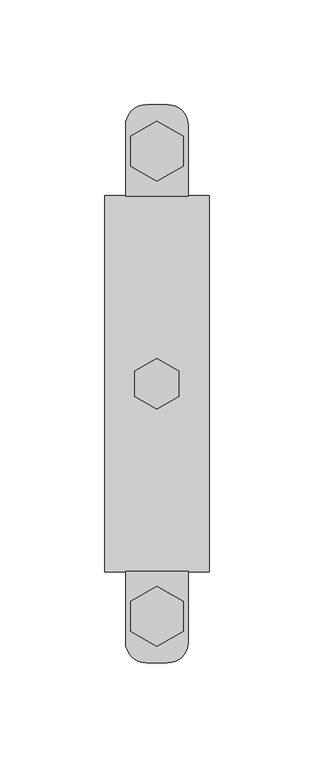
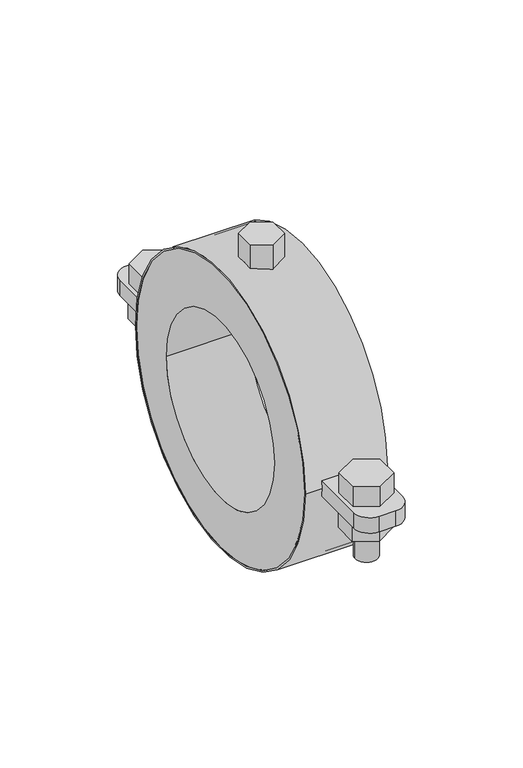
"""IFC4 building model written with IfcOpenShell, lengths in millimetres: pipe fitting geometry, СТ_Подвесы_ДляТруб_IsotermUltima_D10-219_СимфонияТепла : Isoterm ULT 32-114."""

from ifc_helpers import new_model, si_unit, point, frame, frame_2d, origin, origin_2d, place, context, project, spatial, polyline, circle_curve, trimmed, segment, composite_curve, outline, extrude, source, transform, mapped, element, save
from ifc_brep_helpers import plane_surface, cylinder_surface, advanced_brep


def pipe_fitting_ec2c8cdd(model_context):
    return source(origin(), model_context, "Body", "SolidModel", [
        extrude(outline(polyline([(12.5, 104.9613249), (0.0, 97.7444465), (-12.5, 104.9613249), (-12.5, 119.3950816), (0.0, 126.61196), (12.5, 119.3950816), (12.5, 104.9613249)])), frame((0.0, 0.0, -18.0), z_axis=(0.0, 0.0, 1.0), x_axis=(1.0, 0.0, 0.0)), (0.0, 0.0, 1.0), 13.0),
        advanced_brep(
        [(-7.0, 111.25, -35.0), (7.0, 111.25, -35.0), (7.0, 111.25, 5.0), (-7.0, 111.25, 5.0), (12.5, 104.0331216, 18.0), (12.5, 118.4668784, 18.0), (0.0, 125.6837567, 18.0), (-12.5, 118.4668784, 18.0), (-12.5, 104.0331216, 18.0), (0.0, 96.8162433, 18.0), (12.5, 104.0331216, 5.0), (0.0, 96.8162433, 5.0), (-12.5, 104.0331216, 5.0), (-12.5, 118.4668784, 5.0), (0.0, 125.6837567, 5.0), (12.5, 118.4668784, 5.0)],
        [
            (0, 1, circle_curve(frame((0.0, 111.25, -35.0), z_axis=(0.0, 0.0, -1.0), x_axis=(1.0, 0.0, 0.0)), 7.0)),
            (1, 0, circle_curve(frame((0.0, 111.25, -35.0), z_axis=(0.0, 0.0, -1.0), x_axis=(1.0, 0.0, 0.0)), 7.0)),
            (1, 2),
            (2, 3, circle_curve(frame((0.0, 111.25, 5.0), z_axis=(0.0, 0.0, -1.0), x_axis=(1.0, 0.0, 0.0)), 7.0)),
            (3, 0),
            (3, 2, circle_curve(frame((0.0, 111.25, 5.0), z_axis=(0.0, 0.0, -1.0), x_axis=(1.0, 0.0, 0.0)), 7.0)),
            (4, 5),
            (5, 6),
            (6, 7),
            (7, 8),
            (8, 9),
            (9, 4),
            (10, 11),
            (11, 12),
            (12, 13),
            (13, 14),
            (14, 15),
            (15, 10),
            (4, 10),
            (15, 5),
            (14, 6),
            (13, 7),
            (12, 8),
            (11, 9),
        ],
        [
            plane_surface(frame((7.0, 111.25, -35.0), z_axis=(0.0, 0.0, -1.0), x_axis=(0.0, -1.0, 0.0))),
            cylinder_surface(frame((0.0, 111.25, -35.0), z_axis=(0.0, 0.0, 1.0), x_axis=(1.0, 0.0, 0.0)), 7.0),
            plane_surface(frame((12.5, 104.0331216, 18.0), z_axis=(0.0, 0.0, 1.0), x_axis=(0.0, 1.0, 0.0))),
            plane_surface(frame((12.5, 104.0331216, 5.0), z_axis=(0.0, 0.0, -1.0), x_axis=(0.0, -1.0, 0.0))),
            plane_surface(frame((12.5, 104.0331216, 18.0), z_axis=(1.0, 0.0, 0.0), x_axis=(0.0, 0.0, -1.0))),
            plane_surface(frame((12.5, 118.4668784, 18.0), z_axis=(0.5000000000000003, 0.8660254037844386, 0.0), x_axis=(0.0, 0.0, -1.0))),
            plane_surface(frame((0.0, 125.6837567, 18.0), z_axis=(-0.5000000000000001, 0.8660254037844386, 0.0), x_axis=(0.0, 0.0, -1.0))),
            plane_surface(frame((-12.5, 118.4668784, 18.0), z_axis=(-1.0, 0.0, 0.0), x_axis=(0.0, 0.0, -1.0))),
            plane_surface(frame((-12.5, 104.0331216, 18.0), z_axis=(-0.5000000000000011, -0.8660254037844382, 0.0), x_axis=(0.0, 0.0, -1.0))),
            plane_surface(frame((0.0, 96.8162433, 18.0), z_axis=(0.5000000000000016, -0.8660254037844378, 0.0), x_axis=(0.0, 0.0, -1.0))),
        ],
        [
            (0, [[1, 2]]),
            (1, [[-2, 3, 4, 5]]),
            (1, [[-1, -5, 6, -3]]),
            (2, [[7, 8, 9, 10, 11, 12]]),
            (3, [[13, 14, 15, 16, 17, 18], [-4, -6]]),
            (4, [[-7, 19, -18, 20]]),
            (5, [[-8, -20, -17, 21]]),
            (6, [[-9, -21, -16, 22]]),
            (7, [[-10, -22, -15, 23]]),
            (8, [[-11, -23, -14, 24]]),
            (9, [[-12, -24, -13, -19]]),
        ],
    ),
        extrude(outline(polyline([(12.5, -117.5386751), (0.0, -124.7555535), (-12.5, -117.5386751), (-12.5, -103.1049184), (0.0, -95.88804), (12.5, -103.1049184), (12.5, -117.5386751)])), frame((0.0, 0.0, -18.0), z_axis=(0.0, 0.0, 1.0), x_axis=(1.0, 0.0, 0.0)), (0.0, 0.0, 1.0), 13.0),
        advanced_brep(
        [(-7.0, -111.25, -35.0), (7.0, -111.25, -35.0), (7.0, -111.25, 5.0), (-7.0, -111.25, 5.0), (12.5, -118.4668784, 18.0), (12.5, -104.0331216, 18.0), (0.0, -96.8162433, 18.0), (-12.5, -104.0331216, 18.0), (-12.5, -118.4668784, 18.0), (0.0, -125.6837567, 18.0), (12.5, -118.4668784, 5.0), (0.0, -125.6837567, 5.0), (-12.5, -118.4668784, 5.0), (-12.5, -104.0331216, 5.0), (0.0, -96.8162433, 5.0), (12.5, -104.0331216, 5.0)],
        [
            (0, 1, circle_curve(frame((0.0, -111.25, -35.0), z_axis=(0.0, 0.0, -1.0), x_axis=(1.0, 0.0, 0.0)), 7.0)),
            (1, 0, circle_curve(frame((0.0, -111.25, -35.0), z_axis=(0.0, 0.0, -1.0), x_axis=(1.0, 0.0, 0.0)), 7.0)),
            (1, 2),
            (2, 3, circle_curve(frame((0.0, -111.25, 5.0), z_axis=(0.0, 0.0, -1.0), x_axis=(1.0, 0.0, 0.0)), 7.0)),
            (3, 0),
            (3, 2, circle_curve(frame((0.0, -111.25, 5.0), z_axis=(0.0, 0.0, -1.0), x_axis=(1.0, 0.0, 0.0)), 7.0)),
            (4, 5),
            (5, 6),
            (6, 7),
            (7, 8),
            (8, 9),
            (9, 4),
            (10, 11),
            (11, 12),
            (12, 13),
            (13, 14),
            (14, 15),
            (15, 10),
            (4, 10),
            (15, 5),
            (14, 6),
            (13, 7),
            (12, 8),
            (11, 9),
        ],
        [
            plane_surface(frame((7.0, -111.25, -35.0), z_axis=(0.0, 0.0, -1.0), x_axis=(0.0, -1.0, 0.0))),
            cylinder_surface(frame((0.0, -111.25, -35.0), z_axis=(0.0, 0.0, 1.0), x_axis=(1.0, 0.0, 0.0)), 7.0),
            plane_surface(frame((12.5, -118.4668784, 18.0), z_axis=(0.0, 0.0, 1.0), x_axis=(0.0, 1.0, 0.0))),
            plane_surface(frame((12.5, -118.4668784, 5.0), z_axis=(0.0, 0.0, -1.0), x_axis=(0.0, -1.0, 0.0))),
            plane_surface(frame((12.5, -118.4668784, 18.0), z_axis=(1.0, 0.0, 0.0), x_axis=(0.0, 0.0, -1.0))),
            plane_surface(frame((12.5, -104.0331216, 18.0), z_axis=(0.5000000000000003, 0.8660254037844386, 0.0), x_axis=(0.0, 0.0, -1.0))),
            plane_surface(frame((0.0, -96.8162433, 18.0), z_axis=(-0.5000000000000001, 0.8660254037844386, 0.0), x_axis=(0.0, 0.0, -1.0))),
            plane_surface(frame((-12.5, -104.0331216, 18.0), z_axis=(-1.0, 0.0, 0.0), x_axis=(0.0, 0.0, -1.0))),
            plane_surface(frame((-12.5, -118.4668784, 18.0), z_axis=(-0.5000000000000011, -0.8660254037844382, 0.0), x_axis=(0.0, 0.0, -1.0))),
            plane_surface(frame((0.0, -125.6837567, 18.0), z_axis=(0.5000000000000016, -0.8660254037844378, 0.0), x_axis=(0.0, 0.0, -1.0))),
        ],
        [
            (0, [[1, 2]]),
            (1, [[-2, 3, 4, 5]]),
            (1, [[-1, -5, 6, -3]]),
            (2, [[7, 8, 9, 10, 11, 12]]),
            (3, [[13, 14, 15, 16, 17, 18], [-4, -6]]),
            (4, [[-7, 19, -18, 20]]),
            (5, [[-8, -20, -17, 21]]),
            (6, [[-9, -21, -16, 22]]),
            (7, [[-10, -22, -15, 23]]),
            (8, [[-11, -23, -14, 24]]),
            (9, [[-12, -24, -13, -19]]),
        ],
    ),
        extrude(outline(composite_curve([segment(trimmed(circle_curve(origin_2d(), 90.0), [point((-90.0, 0.0))], [point((90.0, 0.0))], False, "CARTESIAN"), True, "CONTINUOUS"), segment(trimmed(circle_curve(origin_2d(), 90.0), [point((90.0, 0.0))], [point((-90.0, 0.0))], False, "CARTESIAN"), True, "CONTINUOUS")], self_intersect=False), holes=[composite_curve([segment(trimmed(circle_curve(origin_2d(), 89.0), [point((-89.0, 0.0))], [point((89.0, 0.0))], True, "CARTESIAN"), True, "CONTINUOUS"), segment(trimmed(circle_curve(origin_2d(), 89.0), [point((89.0, 0.0))], [point((-89.0, 0.0))], True, "CARTESIAN"), True, "CONTINUOUS")], self_intersect=False)]), frame((-25.0, 0.0, 0.0), z_axis=(1.0, 0.0, 0.0), x_axis=(0.0, 1.0, 0.0)), (0.0, 0.0, 1.0), 50.0),
        extrude(outline(polyline([(10.5, -6.0621778), (0.0, -12.1243557), (-10.5, -6.0621778), (-10.5, 6.0621778), (0.0, 12.1243557), (10.5, 6.0621778), (10.5, -6.0621778)])), frame((0.0, 0.0, 89.0), z_axis=(0.0, 0.0, 1.0), x_axis=(1.0, 0.0, 0.0)), (0.0, 0.0, 1.0), 16.0),
        extrude(outline(composite_curve([segment(trimmed(circle_curve(frame_2d((-5.0, 123.5)), 10.0), [point((-15.0, 123.5))], [point((-5.0, 133.5))], False, "CARTESIAN"), True, "CONTINUOUS"), segment(polyline([(-5.0, 133.5), (5.0, 133.5)]), True, "CONTINUOUS"), segment(trimmed(circle_curve(frame_2d((5.0, 123.5)), 10.0), [point((5.0, 133.5))], [point((15.0, 123.5))], False, "CARTESIAN"), True, "CONTINUOUS"), segment(polyline([(15.0, 123.5), (15.0, 89.0), (-15.0, 89.0), (-15.0, 123.5)]), True, "CONTINUOUS")], self_intersect=False)), frame((0.0, 0.0, -5.0), z_axis=(0.0, 0.0, 1.0), x_axis=(1.0, 0.0, 0.0)), (0.0, 0.0, 1.0), 10.0),
        extrude(outline(composite_curve([segment(polyline([(-15.0, -89.0), (15.0, -89.0), (15.0, -123.5)]), True, "CONTINUOUS"), segment(trimmed(circle_curve(frame_2d((5.0, -123.5)), 10.0), [point((15.0, -123.5))], [point((5.0, -133.5))], False, "CARTESIAN"), True, "CONTINUOUS"), segment(polyline([(5.0, -133.5), (-5.0, -133.5)]), True, "CONTINUOUS"), segment(trimmed(circle_curve(frame_2d((-5.0, -123.5)), 10.0), [point((-5.0, -133.5))], [point((-15.0, -123.5))], False, "CARTESIAN"), True, "CONTINUOUS"), segment(polyline([(-15.0, -123.5), (-15.0, -89.0)]), True, "CONTINUOUS")], self_intersect=False)), frame((0.0, 0.0, -5.0), z_axis=(0.0, 0.0, 1.0), x_axis=(1.0, 0.0, 0.0)), (0.0, 0.0, 1.0), 10.0),
        extrude(outline(composite_curve([segment(trimmed(circle_curve(origin_2d(), 89.0), [point((-89.0, 0.0))], [point((89.0, 0.0))], False, "CARTESIAN"), True, "CONTINUOUS"), segment(trimmed(circle_curve(origin_2d(), 89.0), [point((89.0, 0.0))], [point((-89.0, 0.0))], False, "CARTESIAN"), True, "CONTINUOUS")], self_intersect=False), holes=[composite_curve([segment(trimmed(circle_curve(origin_2d(), 57.0), [point((-57.0, 0.0))], [point((57.0, 0.0))], True, "CARTESIAN"), True, "CONTINUOUS"), segment(trimmed(circle_curve(origin_2d(), 57.0), [point((57.0, 0.0))], [point((-57.0, 0.0))], True, "CARTESIAN"), True, "CONTINUOUS")], self_intersect=False)]), frame((-25.0, 0.0, 0.0), z_axis=(1.0, 0.0, 0.0), x_axis=(0.0, 1.0, 0.0)), (0.0, 0.0, 1.0), 50.0),
    ])


if __name__ == "__main__":
    model = new_model("IFC4")
    model_context = context("Model", 3, world=origin())
    ifc_project = project(units=[si_unit("LENGTHUNIT", "METRE", prefix="MILLI")], contexts=[model_context])
    site = spatial("IfcSite", under=ifc_project)
    building = spatial("IfcBuilding", under=site)
    placement = place(None, origin())
    pipe_fitting_shape = pipe_fitting_ec2c8cdd(model_context)
    element("IfcPipeFitting", 1, ObjectType="СТ_Подвесы_ДляТруб_IsotermUltima_D10-219_СимфонияТепла : Isoterm ULT 32-114", at=placement, inside=building, context=model_context, shape_type="MappedRepresentation", body=[
        mapped(pipe_fitting_shape, transform((0.0, 0.0, 0.0), x_axis=(1.0, 0.0, 0.0), y_axis=(0.0, 1.0, 0.0), z_axis=(0.0, 0.0, 1.0))),
    ])
    save(model, "model.ifc")
